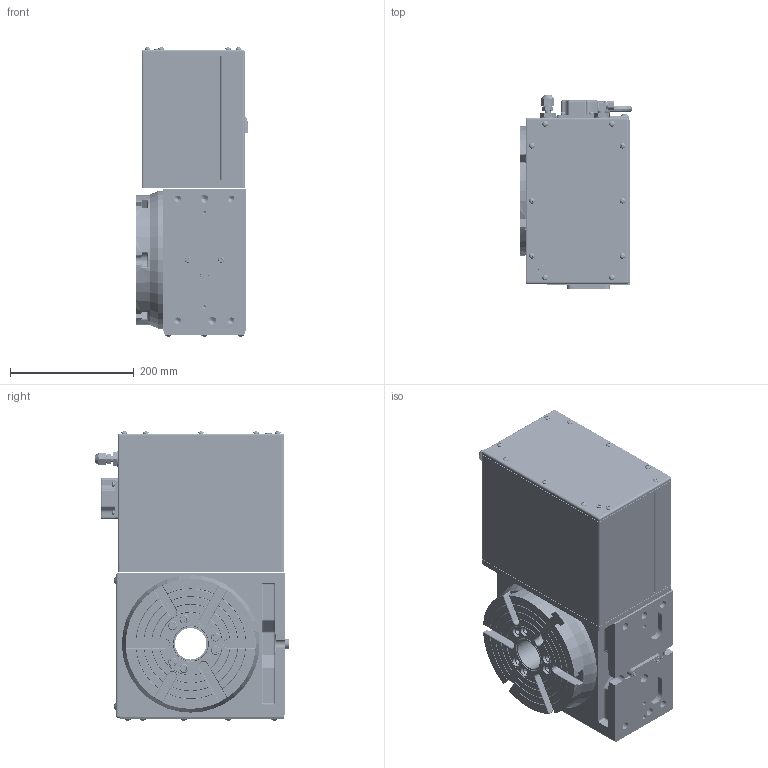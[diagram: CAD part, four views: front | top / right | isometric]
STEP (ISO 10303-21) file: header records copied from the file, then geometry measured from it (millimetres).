
FILE_DESCRIPTION (( 'STEP AP214' ), '1' );
FILE_NAME ('HRT210_STEP_10-29-2020.STEP', '2020-10-29T18:59:24', ( '' ), ( '' ), 'SwSTEP 2.0', 'SolidWorks 2020', '' );
FILE_SCHEMA (( 'AUTOMOTIVE_DESIGN' ));
Length unit declared in the file: inch
Products named in the file (32): 35-4059-10-29-2020; 44-0033-10-29-2020; HRT210_STEP_10-29-2020; 10000098900-10-29-2020; 10000096150-10-29-2020; FOR MLD 10000112171-10-29-2020; 10000122549-10-29-2020; 40-1958-10-29-2020; 28-4126-10-29-2020; 10000023596-10-29-2020; 10000118148-10-29-2020; 10000097807-10-29-2020_50635K379; 58-0306-10-29-2020; 58-1627-10-29-2020; 20-4101-10-29-2020; 10000112164-10-29-2020; 40-1980-10-29-2020; 40-1630-10-29-2020; 10000096149-10-29-2020; 10000118453-10-29-2020; FOR MLD 10000116840-10-29-2020; 10000113057-10-29-2020_09 MOTOR; 58-16752-10-29-2020; 40-1609-10-29-2020_40-0158; 10000121906-10-29-2020; 40-0084-10-29-2020; 10000117419-10-29-2020; 10000062293-10-29-2020; 10000048455-10-29-2020; 10000110848-10-29-2020; 10000112393-10-29-2020; 10000122546-10-29-2020
Assembly tree (80 placements, depth 5):
  HRT210_STEP_10-29-2020
    10000113057-10-29-2020_09 MOTOR
      FOR MLD 10000116840-10-29-2020
      10000023596-10-29-2020
        35-4059-10-29-2020
          10000048455-10-29-2020
      20-4101-10-29-2020
      10000110848-10-29-2020
      10000112164-10-29-2020
      10000112393-10-29-2020
      10000118148-10-29-2020
      10000117419-10-29-2020
      40-1958-10-29-2020  x6
      40-1980-10-29-2020  x12
      40-0084-10-29-2020  x6
      58-1627-10-29-2020
      40-1609-10-29-2020_40-0158  x14
      10000096150-10-29-2020  x14
      10000096149-10-29-2020  x2
      44-0033-10-29-2020
      58-0306-10-29-2020
      58-16752-10-29-2020
      10000097807-10-29-2020_50635K379
      10000098900-10-29-2020  x2
      28-4126-10-29-2020
      FOR MLD 10000112171-10-29-2020
    10000122549-10-29-2020
      10000122546-10-29-2020
    10000121906-10-29-2020
      10000118453-10-29-2020
      40-1630-10-29-2020  x2
  10000062293-10-29-2020
Bounding box: 182.1 x 312.13 x 466.95 mm (x, y, z)
Volume: 19408686.5 mm3; surface area: 1336369 mm2
Topology: 82 solids, 84 shells, 3735 faces, 9207 edges, 5790 vertices
Faces by surface type: cylinder 1495, plane 1191, cone 508, sphere 402, torus 99, bspline 40
Entity records: 108742 total; most frequent: CARTESIAN_POINT 26213, DIRECTION 15256, ORIENTED_EDGE 14426, EDGE_CURVE 7213, AXIS2_PLACEMENT_3D 6166, VERTEX_POINT 4552, EDGE_LOOP 3243, CIRCLE 3223
